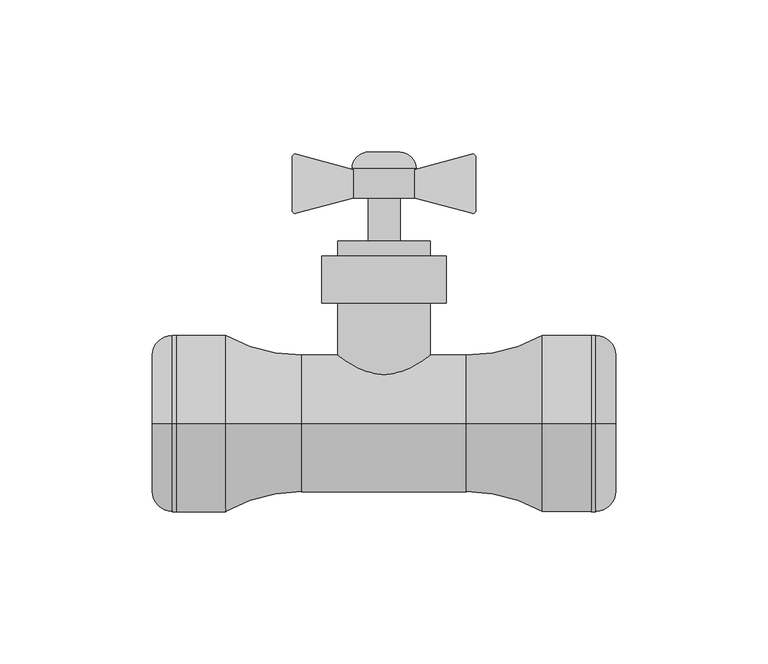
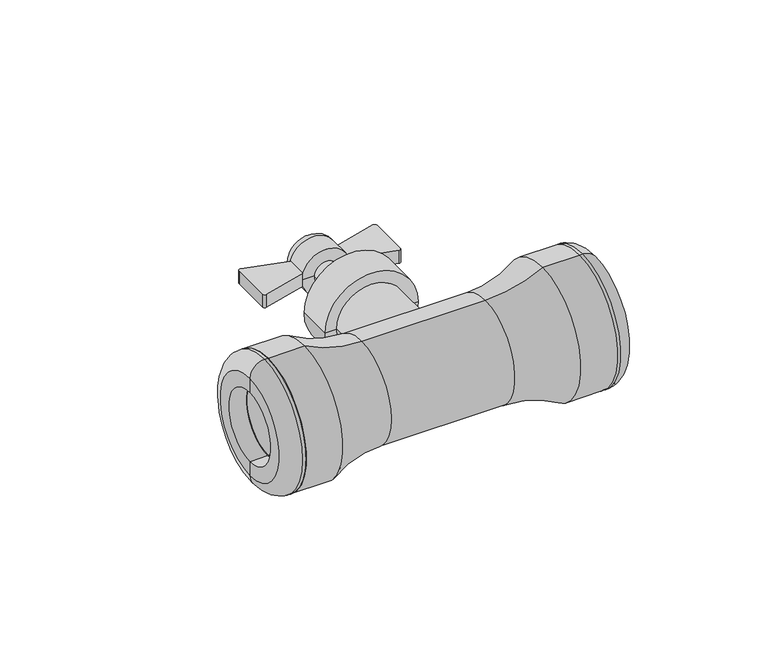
"""IFC4 building model written with IfcOpenShell, lengths in millimetres: pipe fitting geometry, Plumbing_Pipe-Fittings_Plasson_Compression-Stoptap_3410 : Plumbing_Pipe-Fittings_Plasson_Compression-Stoptap_3410."""

from ifc_helpers import new_model, si_unit, point, frame, origin, place, context, project, spatial, polyline, circle_curve, ellipse_curve, trimmed, source, transform, mapped, element, save
from ifc_brep_helpers import plane_surface, cylinder_surface, revolved_surface, advanced_brep


def pipe_fitting_b861327e(model_context):
    return source(origin(), model_context, "Body", "AdvancedBrep", [
        advanced_brep(
        [(-28.8737246, 88.3502005, 3.0), (-30.1325437, 87.3842746, 3.0), (-30.1325437, 69.9254214, 3.0), (-28.8737246, 68.9594955, 3.0), (-10.0623059, 74.0, 3.0), (-10.0623059, 83.309696, 3.0), (28.8737246, 68.9594955, 3.0), (30.1325437, 69.9254214, 3.0), (30.1325437, 87.3842746, 3.0), (28.8737246, 88.3502005, 3.0), (10.0623059, 83.309696, 3.0), (10.0623059, 74.0, 3.0), (28.8737246, 88.3502005, -3.0), (30.1325437, 87.3842746, -3.0), (30.1325437, 69.9254214, -3.0), (28.8737246, 68.9594955, -3.0), (10.0623059, 74.0, -3.0), (10.0623059, 83.309696, -3.0), (-28.8737246, 68.9594955, -3.0), (-30.1325437, 69.9254214, -3.0), (-30.1325437, 87.3842746, -3.0), (-28.8737246, 88.3502005, -3.0), (-10.0623059, 83.309696, -3.0), (-10.0623059, 74.0, -3.0), (-10.5, 83.4269758, 0.0), (10.5, 83.4269758, 0.0), (10.0623059, 74.0, 0.0), (0.0, 74.0, 0.0), (-10.0623059, 74.0, 0.0), (5.25, 89.0, 0.0), (-5.25, 89.0, 0.0), (0.0, 89.0, 0.0), (10.5, 83.75, 0.0), (-10.5, 83.75, 0.0)],
        [
            (0, 1, circle_curve(frame((-29.1325437, 87.3842746, 3.0), z_axis=(0.0, 0.0, 1.0), x_axis=(1.0, 0.0, 0.0)), 1.0)),
            (1, 2),
            (2, 3, circle_curve(frame((-29.1325437, 69.9254214, 3.0), z_axis=(0.0, 0.0, 1.0), x_axis=(1.0, 0.0, 0.0)), 1.0)),
            (3, 4),
            (4, 5),
            (5, 0),
            (6, 7, circle_curve(frame((29.1325437, 69.9254214, 3.0), z_axis=(0.0, 0.0, 1.0), x_axis=(1.0, 0.0, 0.0)), 1.0)),
            (7, 8),
            (8, 9, circle_curve(frame((29.1325437, 87.3842746, 3.0), z_axis=(0.0, 0.0, 1.0), x_axis=(1.0, 0.0, 0.0)), 1.0)),
            (9, 10),
            (10, 11),
            (11, 6),
            (12, 13, circle_curve(frame((29.1325437, 87.3842746, -3.0), z_axis=(0.0, 0.0, -1.0), x_axis=(1.0, 0.0, 0.0)), 1.0)),
            (13, 14),
            (14, 15, circle_curve(frame((29.1325437, 69.9254214, -3.0), z_axis=(0.0, 0.0, -1.0), x_axis=(1.0, 0.0, 0.0)), 1.0)),
            (15, 16),
            (16, 17),
            (17, 12),
            (18, 19, circle_curve(frame((-29.1325437, 69.9254214, -3.0), z_axis=(0.0, 0.0, -1.0), x_axis=(1.0, 0.0, 0.0)), 1.0)),
            (19, 20),
            (20, 21, circle_curve(frame((-29.1325437, 87.3842746, -3.0), z_axis=(0.0, 0.0, -1.0), x_axis=(1.0, 0.0, 0.0)), 1.0)),
            (21, 22),
            (22, 23),
            (23, 18),
            (21, 0),
            (5, 24, ellipse_curve(frame((0.0, 80.6135093, 0.0), z_axis=(-0.2588190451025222, -0.965925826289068, 0.0), x_axis=(0.9659258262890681, -0.2588190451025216, 0.0)), 10.8703999, 10.5)),
            (24, 22, ellipse_curve(frame((0.0, 80.6135093, 0.0), z_axis=(-0.2588190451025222, -0.965925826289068, 0.0), x_axis=(0.9659258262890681, -0.2588190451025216, 0.0)), 10.8703999, 10.5)),
            (9, 12),
            (17, 25, ellipse_curve(frame((0.0, 80.6135093, 0.0), z_axis=(0.25881904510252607, -0.9659258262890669, 0.0), x_axis=(-0.9659258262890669, -0.25881904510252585, 0.0)), 10.8703999, 10.5)),
            (25, 10, ellipse_curve(frame((0.0, 80.6135093, 0.0), z_axis=(0.25881904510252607, -0.9659258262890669, 0.0), x_axis=(-0.9659258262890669, -0.25881904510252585, 0.0)), 10.8703999, 10.5)),
            (8, 13),
            (20, 1),
            (23, 16, circle_curve(frame((0.0, 74.0, 0.0), z_axis=(0.0, -1.0, 0.0), x_axis=(-1.0, 0.0, 0.0)), 10.5)),
            (16, 26),
            (26, 27),
            (27, 28),
            (28, 23),
            (11, 4, circle_curve(frame((0.0, 74.0, 0.0), z_axis=(0.0, -1.0, 0.0), x_axis=(-1.0, 0.0, 0.0)), 10.5)),
            (4, 28),
            (26, 11),
            (29, 30, circle_curve(frame((0.0, 89.0, 0.0), z_axis=(0.0, 1.0, 0.0), x_axis=(-1.0, 0.0, 0.0)), 5.25)),
            (30, 31),
            (31, 29),
            (30, 29, circle_curve(frame((0.0, 89.0, 0.0), z_axis=(0.0, 1.0, 0.0), x_axis=(-1.0, 0.0, 0.0)), 5.25)),
            (29, 32, circle_curve(frame((5.25, 83.75, 0.0), z_axis=(0.0, 0.0, -1.0), x_axis=(-1.0, 0.0, 0.0)), 5.25)),
            (32, 33, circle_curve(frame((0.0, 83.75, 0.0), z_axis=(0.0, 1.0, 0.0), x_axis=(-1.0, 0.0, 0.0)), 10.5)),
            (33, 30, circle_curve(frame((-5.25, 83.75, 0.0), z_axis=(0.0, 0.0, -1.0), x_axis=(1.0, 0.0, 0.0)), 5.25)),
            (33, 32, circle_curve(frame((0.0, 83.75, 0.0), z_axis=(0.0, 1.0, 0.0), x_axis=(-1.0, 0.0, 0.0)), 10.5)),
            (32, 25),
            (24, 33),
            (19, 2),
            (18, 3),
            (15, 6),
            (14, 7),
        ],
        [
            plane_surface(frame((-28.8737246, 88.3502005, 3.0), z_axis=(0.0, 0.0, 1.0000000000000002), x_axis=(-0.965925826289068, 0.2588190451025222, 0.0))),
            plane_surface(frame((-28.8737246, 88.3502005, -3.0), z_axis=(0.0, 0.0, -1.0000000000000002), x_axis=(0.965925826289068, -0.2588190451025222, 0.0))),
            plane_surface(frame((0.0, 80.6135093, 3.0), z_axis=(0.2588190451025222, 0.965925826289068, 0.0), x_axis=(0.0, 0.0, -1.0))),
            plane_surface(frame((28.8737246, 88.3502005, 3.0), z_axis=(-0.25881904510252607, 0.9659258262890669, 0.0), x_axis=(0.0, 0.0, -1.0))),
            cylinder_surface(frame((29.1325437, 87.3842746, -3.0), z_axis=(0.0, 0.0, 1.0), x_axis=(1.0, 0.0, 0.0)), 1.0),
            cylinder_surface(frame((-29.1325437, 87.3842746, -3.0), z_axis=(0.0, 0.0, 1.0), x_axis=(1.0, 0.0, 0.0)), 1.0),
            plane_surface(frame((0.0, 74.0, 0.0), z_axis=(0.0, -1.0, 0.0), x_axis=(-1.0, 0.0, 0.0))),
            plane_surface(frame((0.0, 89.0, 0.0), z_axis=(0.0, 1.0, 0.0), x_axis=(-1.0, 0.0, 0.0))),
            revolved_surface(trimmed(ellipse_curve(frame((-5.25, 83.75, 0.0), z_axis=(0.0, 0.0, 1.0), x_axis=(1.0, 0.0, 0.0)), 5.25, 5.25), [point((-5.25, 89.0, 0.0))], [point((-10.5, 83.75, 0.0))], True, "CARTESIAN"), (0.0, 92.8144029, 0.0), (0.0, -1.0, 0.0)),
            cylinder_surface(frame((0.0, 92.8144029, 0.0), z_axis=(0.0, -1.0, 0.0), x_axis=(-1.0, 0.0, 0.0)), 10.5),
            plane_surface(frame((-30.1325437, 87.3842746, 3.0), z_axis=(-1.0, 0.0, 0.0), x_axis=(0.0, 0.0, -1.0))),
            cylinder_surface(frame((-29.1325437, 69.9254214, -3.0), z_axis=(0.0, 0.0, 1.0), x_axis=(1.0, 0.0, 0.0)), 1.0),
            plane_surface(frame((-28.8737246, 68.9594955, 3.0), z_axis=(0.2588190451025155, -0.9659258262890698, 0.0), x_axis=(0.0, 0.0, -1.0))),
            plane_surface(frame((0.0, 76.6961867, 3.0), z_axis=(-0.2588190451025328, -0.9659258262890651, 0.0), x_axis=(0.0, 0.0, -1.0))),
            cylinder_surface(frame((29.1325437, 69.9254214, -3.0), z_axis=(0.0, 0.0, 1.0), x_axis=(1.0, 0.0, 0.0)), 1.0),
            plane_surface(frame((30.1325437, 69.9254214, 3.0), z_axis=(1.0, 0.0, 0.0), x_axis=(0.0, 0.0, -1.0))),
        ],
        [
            (0, [[1, 2, 3, 4, 5, 6]]),
            (0, [[7, 8, 9, 10, 11, 12]]),
            (1, [[13, 14, 15, 16, 17, 18]]),
            (1, [[19, 20, 21, 22, 23, 24]]),
            (2, [[25, -6, 26, 27, -22]]),
            (3, [[28, -18, 29, 30, -10]]),
            (4, [[-9, 31, -13, -28]]),
            (5, [[-1, -25, -21, 32]]),
            (6, [[33, 34, 35, 36, 37]]),
            (6, [[38, 39, -36, -35, 40]]),
            (7, [[41, 42, 43]]),
            (7, [[-42, 44, -43]]),
            (8, [[-41, 45, 46, 47]]),
            (8, [[-44, -47, 48, -45]]),
            (9, [[-46, 49, -29, -17, -33, -23, -27, 50]]),
            (9, [[-48, -50, -26, -5, -38, -11, -30, -49]]),
            (10, [[-2, -32, -20, 51]]),
            (11, [[-3, -51, -19, 52]]),
            (12, [[-52, -24, -37, -39, -4]]),
            (13, [[53, -12, -40, -34, -16]]),
            (14, [[-7, -53, -15, 54]]),
            (15, [[-8, -54, -14, -31]]),
        ],
    ),
        advanced_brep(
        [(20.5, 39.5, 0.0), (-20.5, 39.5, 0.0), (-20.5, 55.0, 0.0), (20.5, 55.0, 0.0), (15.25, 0.0, 0.0), (-15.25, 0.0, 0.0), (-15.25, 39.5, 0.0), (15.25, 39.5, 0.0), (0.0, 0.0, 0.0), (5.25, 84.0, 0.0), (-5.25, 84.0, 0.0), (0.0, 84.0, 0.0), (5.25, 59.9124699, 0.0), (-5.25, 59.9124699, 0.0), (15.25, 59.9124699, 0.0), (-15.25, 59.9124699, 0.0), (15.25, 55.0, 0.0), (-15.25, 55.0, 0.0)],
        [
            (0, 1, circle_curve(frame((0.0, 39.5, 0.0), z_axis=(0.0, 1.0, 0.0), x_axis=(-1.0, 0.0, 0.0)), 20.5)),
            (1, 2),
            (2, 3, circle_curve(frame((0.0, 55.0, 0.0), z_axis=(0.0, -1.0, 0.0), x_axis=(-1.0, 0.0, 0.0)), 20.5)),
            (3, 0),
            (1, 0, circle_curve(frame((0.0, 39.5, 0.0), z_axis=(0.0, 1.0, 0.0), x_axis=(-1.0, 0.0, 0.0)), 20.5)),
            (3, 2, circle_curve(frame((0.0, 55.0, 0.0), z_axis=(0.0, -1.0, 0.0), x_axis=(-1.0, 0.0, 0.0)), 20.5)),
            (4, 5, circle_curve(frame((0.0, 0.0, 0.0), z_axis=(0.0, 1.0, 0.0), x_axis=(-1.0, 0.0, 0.0)), 15.25)),
            (5, 6),
            (6, 7, circle_curve(frame((0.0, 39.5, 0.0), z_axis=(0.0, -1.0, 0.0), x_axis=(-1.0, 0.0, 0.0)), 15.25)),
            (7, 4),
            (5, 4, circle_curve(frame((0.0, 0.0, 0.0), z_axis=(0.0, 1.0, 0.0), x_axis=(-1.0, 0.0, 0.0)), 15.25)),
            (7, 6, circle_curve(frame((0.0, 39.5, 0.0), z_axis=(0.0, -1.0, 0.0), x_axis=(-1.0, 0.0, 0.0)), 15.25)),
            (8, 5),
            (4, 8),
            (6, 1),
            (0, 7),
            (9, 10, circle_curve(frame((0.0, 84.0, 0.0), z_axis=(0.0, 1.0, 0.0), x_axis=(-1.0, 0.0, 0.0)), 5.25)),
            (10, 11),
            (11, 9),
            (10, 9, circle_curve(frame((0.0, 84.0, 0.0), z_axis=(0.0, 1.0, 0.0), x_axis=(-1.0, 0.0, 0.0)), 5.25)),
            (12, 13, circle_curve(frame((0.0, 59.9124699, 0.0), z_axis=(0.0, 1.0, 0.0), x_axis=(-1.0, 0.0, 0.0)), 5.25)),
            (13, 10),
            (9, 12),
            (13, 12, circle_curve(frame((0.0, 59.9124699, 0.0), z_axis=(0.0, 1.0, 0.0), x_axis=(-1.0, 0.0, 0.0)), 5.25)),
            (14, 15, circle_curve(frame((0.0, 59.9124699, 0.0), z_axis=(0.0, 1.0, 0.0), x_axis=(-1.0, 0.0, 0.0)), 15.25)),
            (15, 13),
            (12, 14),
            (15, 14, circle_curve(frame((0.0, 59.9124699, 0.0), z_axis=(0.0, 1.0, 0.0), x_axis=(-1.0, 0.0, 0.0)), 15.25)),
            (16, 17, circle_curve(frame((0.0, 55.0, 0.0), z_axis=(0.0, 1.0, 0.0), x_axis=(-1.0, 0.0, 0.0)), 15.25)),
            (17, 15),
            (14, 16),
            (17, 16, circle_curve(frame((0.0, 55.0, 0.0), z_axis=(0.0, 1.0, 0.0), x_axis=(-1.0, 0.0, 0.0)), 15.25)),
            (2, 17),
            (16, 3),
        ],
        [
            cylinder_surface(frame((0.0, 81.5, 0.0), z_axis=(0.0, -1.0, 0.0), x_axis=(-1.0, 0.0, 0.0)), 20.5),
            cylinder_surface(frame((0.0, 81.5, 0.0), z_axis=(0.0, -1.0, 0.0), x_axis=(-1.0, 0.0, 0.0)), 15.25),
            plane_surface(frame((0.0, 0.0, 0.0), z_axis=(0.0, -1.0, 0.0), x_axis=(-1.0, 0.0, 0.0))),
            plane_surface(frame((0.0, 39.5, 0.0), z_axis=(0.0, -1.0, 0.0), x_axis=(-1.0, 0.0, 0.0))),
            plane_surface(frame((0.0, 84.0, 0.0), z_axis=(0.0, 1.0, 0.0), x_axis=(-1.0, 0.0, 0.0))),
            cylinder_surface(frame((0.0, 81.5, 0.0), z_axis=(0.0, -1.0, 0.0), x_axis=(-1.0, 0.0, 0.0)), 5.25),
            plane_surface(frame((0.0, 59.9124699, 0.0), z_axis=(0.0, 1.0, 0.0), x_axis=(-1.0, 0.0, 0.0))),
            plane_surface(frame((0.0, 55.0, 0.0), z_axis=(0.0, 1.0, 0.0), x_axis=(-1.0, 0.0, 0.0))),
        ],
        [
            (0, [[1, 2, 3, 4]]),
            (0, [[5, -4, 6, -2]]),
            (1, [[7, 8, 9, 10]]),
            (1, [[11, -10, 12, -8]]),
            (2, [[13, -7, 14]]),
            (2, [[-14, -11, -13]]),
            (3, [[-9, 15, -1, 16]]),
            (3, [[-12, -16, -5, -15]]),
            (4, [[17, 18, 19]]),
            (4, [[20, -19, -18]]),
            (5, [[21, 22, -17, 23]]),
            (5, [[24, -23, -20, -22]]),
            (6, [[25, 26, -21, 27]]),
            (6, [[28, -27, -24, -26]]),
            (1, [[29, 30, -25, 31]]),
            (1, [[32, -31, -28, -30]]),
            (7, [[-3, 33, -29, 34]]),
            (7, [[-6, -34, -32, -33]]),
        ],
    ),
        advanced_brep(
        [(52.0, 0.0, -29.0), (52.0, 0.0, 29.0), (68.0, 0.0, 29.0), (68.0, 0.0, -29.0), (27.0, 0.0, -22.5), (27.0, 0.0, 22.5), (28.0, 0.0, -14.0), (28.0, 0.0, 14.0), (27.0, 0.0, 14.0), (27.0, 0.0, -14.0), (28.0, 0.0, -16.0), (28.0, 0.0, 16.0), (68.0, 0.0, -16.0), (68.0, 0.0, 16.0), (-27.0, 0.0, 22.5), (-27.0, 0.0, -22.5), (-27.0, 13.2251682, -18.2028824), (-27.0, 21.3987716, -6.9528824), (-27.0, 21.3987716, 6.9528824), (-27.0, 13.2251682, 18.2028824), (-27.0, -13.2251682, 18.2028824), (-27.0, -21.3987716, 6.9528824), (-27.0, -21.3987716, -6.9528824), (-27.0, -13.2251682, -18.2028824), (-27.0, 0.0, 14.0), (-27.0, 0.0, -14.0), (-68.0, 0.0, -16.0), (-68.0, 0.0, 16.0), (-68.0, 0.0, 29.0), (-68.0, 0.0, -29.0), (-28.0, 0.0, -16.0), (-28.0, 0.0, 16.0), (-28.0, 0.0, -14.0), (-28.0, 0.0, 14.0), (-52.0, 0.0, -29.0), (-52.0, 0.0, 29.0)],
        [
            (0, 1, circle_curve(frame((52.0, 0.0, 0.0), z_axis=(1.0, 0.0, 0.0), x_axis=(0.0, 0.0, 1.0)), 29.0)),
            (1, 2),
            (2, 3, circle_curve(frame((68.0, 0.0, 0.0), z_axis=(-1.0, 0.0, 0.0), x_axis=(0.0, 0.0, 1.0)), 29.0)),
            (3, 0),
            (1, 0, circle_curve(frame((52.0, 0.0, 0.0), z_axis=(1.0, 0.0, 0.0), x_axis=(0.0, 0.0, 1.0)), 29.0)),
            (3, 2, circle_curve(frame((68.0, 0.0, 0.0), z_axis=(-1.0, 0.0, 0.0), x_axis=(0.0, 0.0, 1.0)), 29.0)),
            (0, 4, circle_curve(frame((27.0, 0.0, -73.8269231), z_axis=(0.0, -1.0, 0.0), x_axis=(1.0, 0.0, 0.0)), 51.3269231)),
            (4, 5, circle_curve(frame((27.0, 0.0, 0.0), z_axis=(1.0, 0.0, 0.0), x_axis=(0.0, 0.0, 1.0)), 22.5)),
            (5, 1, circle_curve(frame((27.0, 0.0, 73.8269231), z_axis=(0.0, -1.0, 0.0), x_axis=(1.0, 0.0, 0.0)), 51.3269231)),
            (5, 4, circle_curve(frame((27.0, 0.0, 0.0), z_axis=(1.0, 0.0, 0.0), x_axis=(0.0, 0.0, 1.0)), 22.5)),
            (6, 7, circle_curve(frame((28.0, 0.0, 0.0), z_axis=(1.0, 0.0, 0.0), x_axis=(0.0, 0.0, 1.0)), 14.0)),
            (7, 8),
            (8, 9, circle_curve(frame((27.0, 0.0, 0.0), z_axis=(-1.0, 0.0, 0.0), x_axis=(0.0, 0.0, 1.0)), 14.0)),
            (9, 6),
            (7, 6, circle_curve(frame((28.0, 0.0, 0.0), z_axis=(1.0, 0.0, 0.0), x_axis=(0.0, 0.0, 1.0)), 14.0)),
            (9, 8, circle_curve(frame((27.0, 0.0, 0.0), z_axis=(-1.0, 0.0, 0.0), x_axis=(0.0, 0.0, 1.0)), 14.0)),
            (6, 10),
            (10, 11, circle_curve(frame((28.0, 0.0, 0.0), z_axis=(1.0, 0.0, 0.0), x_axis=(0.0, 0.0, 1.0)), 16.0)),
            (11, 7),
            (11, 10, circle_curve(frame((28.0, 0.0, 0.0), z_axis=(1.0, 0.0, 0.0), x_axis=(0.0, 0.0, 1.0)), 16.0)),
            (10, 12),
            (12, 13, circle_curve(frame((68.0, 0.0, 0.0), z_axis=(1.0, 0.0, 0.0), x_axis=(0.0, 0.0, 1.0)), 16.0)),
            (13, 11),
            (13, 12, circle_curve(frame((68.0, 0.0, 0.0), z_axis=(1.0, 0.0, 0.0), x_axis=(0.0, 0.0, 1.0)), 16.0)),
            (2, 13),
            (12, 3),
            (14, 5),
            (4, 15),
            (15, 16, circle_curve(frame((-27.0, 0.0, 0.0), z_axis=(1.0, 0.0, 0.0), x_axis=(0.0, 0.0, 1.0)), 22.5)),
            (16, 17, circle_curve(frame((-27.0, 0.0, 0.0), z_axis=(1.0, 0.0, 0.0), x_axis=(0.0, 0.0, 1.0)), 22.5)),
            (17, 18, circle_curve(frame((-27.0, 0.0, 0.0), z_axis=(1.0, 0.0, 0.0), x_axis=(0.0, 0.0, 1.0)), 22.5)),
            (18, 19, circle_curve(frame((-27.0, 0.0, 0.0), z_axis=(1.0, 0.0, 0.0), x_axis=(0.0, 0.0, 1.0)), 22.5)),
            (19, 14, circle_curve(frame((-27.0, 0.0, 0.0), z_axis=(1.0, 0.0, 0.0), x_axis=(0.0, 0.0, 1.0)), 22.5)),
            (14, 20, circle_curve(frame((-27.0, 0.0, 0.0), z_axis=(1.0, 0.0, 0.0), x_axis=(0.0, 0.0, 1.0)), 22.5)),
            (20, 21, circle_curve(frame((-27.0, 0.0, 0.0), z_axis=(1.0, 0.0, 0.0), x_axis=(0.0, 0.0, 1.0)), 22.5)),
            (21, 22, circle_curve(frame((-27.0, 0.0, 0.0), z_axis=(1.0, 0.0, 0.0), x_axis=(0.0, 0.0, 1.0)), 22.5)),
            (22, 23, circle_curve(frame((-27.0, 0.0, 0.0), z_axis=(1.0, 0.0, 0.0), x_axis=(0.0, 0.0, 1.0)), 22.5)),
            (23, 15, circle_curve(frame((-27.0, 0.0, 0.0), z_axis=(1.0, 0.0, 0.0), x_axis=(0.0, 0.0, 1.0)), 22.5)),
            (8, 24),
            (24, 25, circle_curve(frame((-27.0, 0.0, 0.0), z_axis=(-1.0, 0.0, 0.0), x_axis=(0.0, 0.0, 1.0)), 14.0)),
            (25, 9),
            (25, 24, circle_curve(frame((-27.0, 0.0, 0.0), z_axis=(-1.0, 0.0, 0.0), x_axis=(0.0, 0.0, 1.0)), 14.0)),
            (26, 27, circle_curve(frame((-68.0, 0.0, 0.0), z_axis=(1.0, 0.0, 0.0), x_axis=(0.0, 0.0, 1.0)), 16.0)),
            (27, 28),
            (28, 29, circle_curve(frame((-68.0, 0.0, 0.0), z_axis=(-1.0, 0.0, 0.0), x_axis=(0.0, 0.0, 1.0)), 29.0)),
            (29, 26),
            (27, 26, circle_curve(frame((-68.0, 0.0, 0.0), z_axis=(1.0, 0.0, 0.0), x_axis=(0.0, 0.0, 1.0)), 16.0)),
            (29, 28, circle_curve(frame((-68.0, 0.0, 0.0), z_axis=(-1.0, 0.0, 0.0), x_axis=(0.0, 0.0, 1.0)), 29.0)),
            (26, 30),
            (30, 31, circle_curve(frame((-28.0, 0.0, 0.0), z_axis=(1.0, 0.0, 0.0), x_axis=(0.0, 0.0, 1.0)), 16.0)),
            (31, 27),
            (31, 30, circle_curve(frame((-28.0, 0.0, 0.0), z_axis=(1.0, 0.0, 0.0), x_axis=(0.0, 0.0, 1.0)), 16.0)),
            (30, 32),
            (32, 33, circle_curve(frame((-28.0, 0.0, 0.0), z_axis=(1.0, 0.0, 0.0), x_axis=(0.0, 0.0, 1.0)), 14.0)),
            (33, 31),
            (33, 32, circle_curve(frame((-28.0, 0.0, 0.0), z_axis=(1.0, 0.0, 0.0), x_axis=(0.0, 0.0, 1.0)), 14.0)),
            (32, 25),
            (24, 33),
            (34, 35, circle_curve(frame((-52.0, 0.0, 0.0), z_axis=(1.0, 0.0, 0.0), x_axis=(0.0, 0.0, 1.0)), 29.0)),
            (35, 14, circle_curve(frame((-27.0, 0.0, 73.8269231), z_axis=(0.0, -1.0, 0.0), x_axis=(1.0, 0.0, 0.0)), 51.3269231)),
            (15, 34, circle_curve(frame((-27.0, 0.0, -73.8269231), z_axis=(0.0, -1.0, 0.0), x_axis=(1.0, 0.0, 0.0)), 51.3269231)),
            (35, 34, circle_curve(frame((-52.0, 0.0, 0.0), z_axis=(1.0, 0.0, 0.0), x_axis=(0.0, 0.0, 1.0)), 29.0)),
            (28, 35),
            (34, 29),
        ],
        [
            cylinder_surface(frame((-1.0, 0.0, 0.0), z_axis=(-1.0, 0.0, 0.0), x_axis=(0.0, 0.0, 1.0)), 29.0),
            revolved_surface(trimmed(ellipse_curve(frame((27.0, 0.0, 73.8269231), z_axis=(0.0, 1.0, 0.0), x_axis=(1.0, 0.0, 0.0)), 51.3269231, 51.3269231), [point((52.0, 0.0, 29.0))], [point((27.0, 0.0, 22.5))], True, "CARTESIAN"), (-1.0, 0.0, 0.0), (-1.0, 0.0, 0.0)),
            revolved_surface(polyline([(27.0, 0.0, 14.0), (28.0, 0.0, 14.0)]), (-1.0, 0.0, 0.0), (-1.0, 0.0, 0.0)),
            plane_surface(frame((28.0, 0.0, 0.0), z_axis=(1.0, 0.0, 0.0), x_axis=(0.0, 0.0, 1.0))),
            revolved_surface(polyline([(28.0, 0.0, 16.0), (68.0, 0.0, 16.0)]), (-1.0, 0.0, 0.0), (-1.0, 0.0, 0.0)),
            plane_surface(frame((68.0, 0.0, 0.0), z_axis=(1.0, 0.0, 0.0), x_axis=(0.0, 0.0, 1.0))),
            cylinder_surface(frame((-20.5, 0.0, 0.0), z_axis=(-1.0, 0.0, 0.0), x_axis=(0.0, 0.0, 1.0)), 22.5),
            revolved_surface(polyline([(-27.0, 0.0, 14.0), (27.0, 0.0, 14.0)]), (-20.5, 0.0, 0.0), (-1.0, 0.0, 0.0)),
            plane_surface(frame((-68.0, 0.0, 0.0), z_axis=(-1.0, 0.0, 0.0), x_axis=(0.0, 0.0, 1.0))),
            revolved_surface(polyline([(-68.0, 0.0, 16.0), (-28.0, 0.0, 16.0)]), (-68.0, 0.0, 0.0), (-1.0, 0.0, 0.0)),
            plane_surface(frame((-28.0, 0.0, 0.0), z_axis=(-1.0, 0.0, 0.0), x_axis=(0.0, 0.0, 1.0))),
            revolved_surface(polyline([(-28.0, 0.0, 14.0), (-27.0, 0.0, 14.0)]), (-68.0, 0.0, 0.0), (-1.0, 0.0, 0.0)),
            revolved_surface(trimmed(ellipse_curve(frame((-27.0, 0.0, 73.8269231), z_axis=(0.0, 1.0, 0.0), x_axis=(1.0, 0.0, 0.0)), 51.3269231, 51.3269231), [point((-27.0, 0.0, 22.5))], [point((-52.0, 0.0, 29.0))], True, "CARTESIAN"), (-68.0, 0.0, 0.0), (-1.0, 0.0, 0.0)),
            cylinder_surface(frame((-68.0, 0.0, 0.0), z_axis=(-1.0, 0.0, 0.0), x_axis=(0.0, 0.0, 1.0)), 29.0),
        ],
        [
            (0, [[1, 2, 3, 4]]),
            (0, [[-2, 5, -4, 6]]),
            (1, [[-1, 7, 8, 9]]),
            (1, [[-5, -9, 10, -7]]),
            (2, [[11, 12, 13, 14]]),
            (2, [[-12, 15, -14, 16]]),
            (3, [[-11, 17, 18, 19]]),
            (3, [[-15, -19, 20, -17]]),
            (4, [[-18, 21, 22, 23]]),
            (4, [[-20, -23, 24, -21]]),
            (5, [[-3, 25, -22, 26]]),
            (5, [[-6, -26, -24, -25]]),
            (6, [[27, -8, 28, 29, 30, 31, 32, 33]]),
            (6, [[-27, 34, 35, 36, 37, 38, -28, -10]]),
            (7, [[39, 40, 41, -13]]),
            (7, [[-39, -16, -41, 42]]),
            (8, [[43, 44, 45, 46]]),
            (8, [[-44, 47, -46, 48]]),
            (9, [[-43, 49, 50, 51]]),
            (9, [[-47, -51, 52, -49]]),
            (10, [[-50, 53, 54, 55]]),
            (10, [[-52, -55, 56, -53]]),
            (11, [[-54, 57, -40, 58]]),
            (11, [[-56, -58, -42, -57]]),
            (12, [[59, 60, -33, -32, -31, -30, -29, 61]]),
            (12, [[-60, 62, -61, -38, -37, -36, -35, -34]]),
            (13, [[-45, 63, -59, 64]]),
            (13, [[-48, -64, -62, -63]]),
        ],
    ),
        advanced_brep(
        [(76.0, 0.0, -16.0), (76.0, 0.0, 16.0), (68.0, 0.0, 16.0), (68.0, 0.0, -16.0), (76.0, 0.0, -22.5), (76.0, 0.0, 22.5), (69.5, 0.0, -29.0), (69.5, 0.0, 29.0), (68.0, 0.0, -29.0), (68.0, 0.0, 29.0)],
        [
            (0, 1, circle_curve(frame((76.0, 0.0, 0.0), z_axis=(1.0, 0.0, 0.0), x_axis=(0.0, 0.0, 1.0)), 16.0)),
            (1, 2),
            (2, 3, circle_curve(frame((68.0, 0.0, 0.0), z_axis=(-1.0, 0.0, 0.0), x_axis=(0.0, 0.0, 1.0)), 16.0)),
            (3, 0),
            (1, 0, circle_curve(frame((76.0, 0.0, 0.0), z_axis=(1.0, 0.0, 0.0), x_axis=(0.0, 0.0, 1.0)), 16.0)),
            (3, 2, circle_curve(frame((68.0, 0.0, 0.0), z_axis=(-1.0, 0.0, 0.0), x_axis=(0.0, 0.0, 1.0)), 16.0)),
            (4, 5, circle_curve(frame((76.0, 0.0, 0.0), z_axis=(1.0, 0.0, 0.0), x_axis=(0.0, 0.0, 1.0)), 22.5)),
            (5, 1),
            (0, 4),
            (5, 4, circle_curve(frame((76.0, 0.0, 0.0), z_axis=(1.0, 0.0, 0.0), x_axis=(0.0, 0.0, 1.0)), 22.5)),
            (6, 7, circle_curve(frame((69.5, 0.0, 0.0), z_axis=(1.0, 0.0, 0.0), x_axis=(0.0, 0.0, 1.0)), 29.0)),
            (7, 5, circle_curve(frame((69.5, 0.0, 22.5), z_axis=(0.0, 1.0, 0.0), x_axis=(1.0, 0.0, 0.0)), 6.5)),
            (4, 6, circle_curve(frame((69.5, 0.0, -22.5), z_axis=(0.0, 1.0, 0.0), x_axis=(1.0, 0.0, 0.0)), 6.5)),
            (7, 6, circle_curve(frame((69.5, 0.0, 0.0), z_axis=(1.0, 0.0, 0.0), x_axis=(0.0, 0.0, 1.0)), 29.0)),
            (8, 9, circle_curve(frame((68.0, 0.0, 0.0), z_axis=(1.0, 0.0, 0.0), x_axis=(0.0, 0.0, 1.0)), 29.0)),
            (9, 7),
            (6, 8),
            (9, 8, circle_curve(frame((68.0, 0.0, 0.0), z_axis=(1.0, 0.0, 0.0), x_axis=(0.0, 0.0, 1.0)), 29.0)),
            (2, 9),
            (8, 3),
        ],
        [
            revolved_surface(polyline([(68.0, 0.0, 16.0), (76.0, 0.0, 16.0)]), (61.7804971, 0.0, 0.0), (-1.0, 0.0, 0.0)),
            plane_surface(frame((76.0, 0.0, 0.0), z_axis=(1.0, 0.0, 0.0), x_axis=(0.0, 0.0, 1.0))),
            revolved_surface(trimmed(ellipse_curve(frame((69.5, 0.0, 22.5), z_axis=(0.0, -1.0, 0.0), x_axis=(1.0, 0.0, 0.0)), 6.5, 6.5), [point((76.0, 0.0, 22.5))], [point((69.5, 0.0, 29.0))], True, "CARTESIAN"), (61.7804971, 0.0, 0.0), (-1.0, 0.0, 0.0)),
            cylinder_surface(frame((61.7804971, 0.0, 0.0), z_axis=(-1.0, 0.0, 0.0), x_axis=(0.0, 0.0, 1.0)), 29.0),
            plane_surface(frame((68.0, 0.0, 0.0), z_axis=(-1.0, 0.0, 0.0), x_axis=(0.0, 0.0, 1.0))),
        ],
        [
            (0, [[1, 2, 3, 4]]),
            (0, [[5, -4, 6, -2]]),
            (1, [[7, 8, -1, 9]]),
            (1, [[10, -9, -5, -8]]),
            (2, [[11, 12, -7, 13]]),
            (2, [[14, -13, -10, -12]]),
            (3, [[15, 16, -11, 17]]),
            (3, [[18, -17, -14, -16]]),
            (4, [[-3, 19, -15, 20]]),
            (4, [[-6, -20, -18, -19]]),
        ],
    ),
        advanced_brep(
        [(-68.0, 0.0, -29.0), (-68.0, 0.0, 29.0), (-68.0, 0.0, 16.0), (-68.0, 0.0, -16.0), (-69.5, 0.0, -29.0), (-69.5, 0.0, 29.0), (-76.0, 0.0, -22.5), (-76.0, 0.0, 22.5), (-76.0, 0.0, -16.0), (-76.0, 0.0, 16.0)],
        [
            (0, 1, circle_curve(frame((-68.0, 0.0, 0.0), z_axis=(1.0, 0.0, 0.0), x_axis=(0.0, 0.0, 1.0)), 29.0)),
            (1, 2),
            (2, 3, circle_curve(frame((-68.0, 0.0, 0.0), z_axis=(-1.0, 0.0, 0.0), x_axis=(0.0, 0.0, 1.0)), 16.0)),
            (3, 0),
            (1, 0, circle_curve(frame((-68.0, 0.0, 0.0), z_axis=(1.0, 0.0, 0.0), x_axis=(0.0, 0.0, 1.0)), 29.0)),
            (3, 2, circle_curve(frame((-68.0, 0.0, 0.0), z_axis=(-1.0, 0.0, 0.0), x_axis=(0.0, 0.0, 1.0)), 16.0)),
            (4, 5, circle_curve(frame((-69.5, 0.0, 0.0), z_axis=(1.0, 0.0, 0.0), x_axis=(0.0, 0.0, 1.0)), 29.0)),
            (5, 1),
            (0, 4),
            (5, 4, circle_curve(frame((-69.5, 0.0, 0.0), z_axis=(1.0, 0.0, 0.0), x_axis=(0.0, 0.0, 1.0)), 29.0)),
            (6, 7, circle_curve(frame((-76.0, 0.0, 0.0), z_axis=(1.0, 0.0, 0.0), x_axis=(0.0, 0.0, 1.0)), 22.5)),
            (7, 5, circle_curve(frame((-69.5, 0.0, 22.5), z_axis=(0.0, 1.0, 0.0), x_axis=(1.0, 0.0, 0.0)), 6.5)),
            (4, 6, circle_curve(frame((-69.5, 0.0, -22.5), z_axis=(0.0, 1.0, 0.0), x_axis=(1.0, 0.0, 0.0)), 6.5)),
            (7, 6, circle_curve(frame((-76.0, 0.0, 0.0), z_axis=(1.0, 0.0, 0.0), x_axis=(0.0, 0.0, 1.0)), 22.5)),
            (8, 9, circle_curve(frame((-76.0, 0.0, 0.0), z_axis=(1.0, 0.0, 0.0), x_axis=(0.0, 0.0, 1.0)), 16.0)),
            (9, 7),
            (6, 8),
            (9, 8, circle_curve(frame((-76.0, 0.0, 0.0), z_axis=(1.0, 0.0, 0.0), x_axis=(0.0, 0.0, 1.0)), 16.0)),
            (2, 9),
            (8, 3),
        ],
        [
            plane_surface(frame((-68.0, 0.0, 0.0), z_axis=(1.0, 0.0, 0.0), x_axis=(0.0, 0.0, 1.0))),
            cylinder_surface(frame((-81.0, 0.0, 0.0), z_axis=(-1.0, 0.0, 0.0), x_axis=(0.0, 0.0, 1.0)), 29.0),
            revolved_surface(trimmed(ellipse_curve(frame((-69.5, 0.0, 22.5), z_axis=(0.0, -1.0, 0.0), x_axis=(1.0, 0.0, 0.0)), 6.5, 6.5), [point((-69.5, 0.0, 29.0))], [point((-76.0, 0.0, 22.5))], True, "CARTESIAN"), (-81.0, 0.0, 0.0), (-1.0, 0.0, 0.0)),
            plane_surface(frame((-76.0, 0.0, 0.0), z_axis=(-1.0, 0.0, 0.0), x_axis=(0.0, 0.0, 1.0))),
            revolved_surface(polyline([(-76.0, 0.0, 16.0), (-68.0, 0.0, 16.0)]), (-81.0, 0.0, 0.0), (-1.0, 0.0, 0.0)),
        ],
        [
            (0, [[1, 2, 3, 4]]),
            (0, [[5, -4, 6, -2]]),
            (1, [[7, 8, -1, 9]]),
            (1, [[10, -9, -5, -8]]),
            (2, [[11, 12, -7, 13]]),
            (2, [[14, -13, -10, -12]]),
            (3, [[15, 16, -11, 17]]),
            (3, [[18, -17, -14, -16]]),
            (4, [[-3, 19, -15, 20]]),
            (4, [[-6, -20, -18, -19]]),
        ],
    ),
    ])


if __name__ == "__main__":
    model = new_model("IFC4")
    model_context = context("Model", 3, world=origin())
    ifc_project = project(units=[si_unit("LENGTHUNIT", "METRE", prefix="MILLI")], contexts=[model_context])
    site = spatial("IfcSite", under=ifc_project)
    building = spatial("IfcBuilding", under=site)
    placement = place(None, origin())
    pipe_fitting_shape = pipe_fitting_b861327e(model_context)
    element("IfcPipeFitting", 1, ObjectType="Plumbing_Pipe-Fittings_Plasson_Compression-Stoptap_3410 : Plumbing_Pipe-Fittings_Plasson_Compression-Stoptap_3410", at=placement, inside=building, context=model_context, shape_type="MappedRepresentation", body=[
        mapped(pipe_fitting_shape, transform((0.0, 0.0, 0.0), x_axis=(1.0, 0.0, 0.0), y_axis=(0.0, 1.0, 0.0), z_axis=(0.0, 0.0, 1.0))),
    ])
    save(model, "model.ifc")
